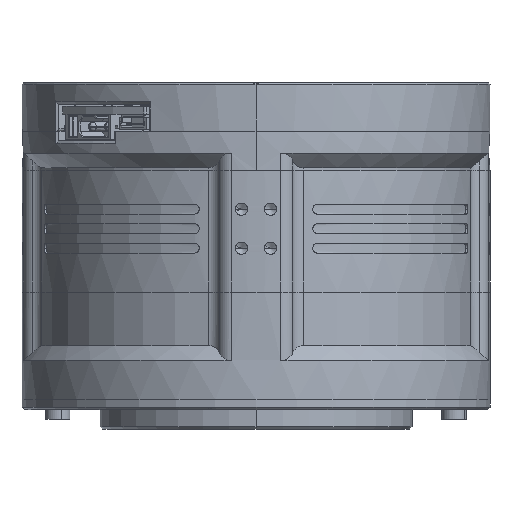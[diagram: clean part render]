
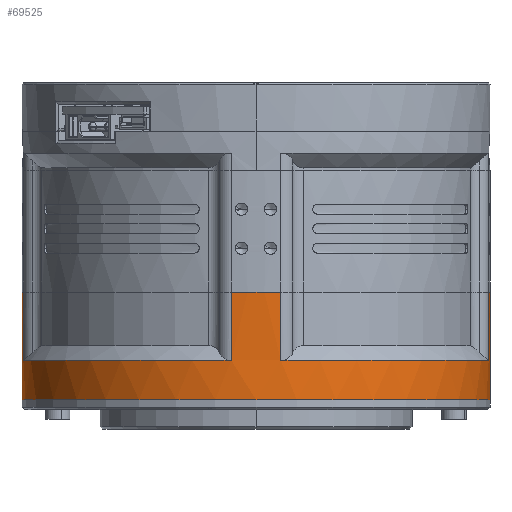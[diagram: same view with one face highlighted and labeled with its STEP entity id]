
A CAD part, front view. The second image highlights one B-rep face of the part: STEP entity #69525.
In plain terms, the highlighted cylindrical face has radius 48 mm (diameter 96 mm), a partial arc.
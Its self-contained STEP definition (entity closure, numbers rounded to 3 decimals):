
#195 = CARTESIAN_POINT ( 'NONE',  ( -47.729, 23.1, -5.093 ) ) ;
#905 = VERTEX_POINT ( 'NONE', #93156 ) ;
#3722 = EDGE_CURVE ( 'NONE', #7662, #54950, #123727, .T. ) ;
#4170 = ORIENTED_EDGE ( 'NONE', *, *, #126357, .F. ) ;
#7050 = CARTESIAN_POINT ( 'NONE',  ( 0., 1., 0. ) ) ;
#7245 = CARTESIAN_POINT ( 'NONE',  ( 0., 23.1, 0. ) ) ;
#7662 = VERTEX_POINT ( 'NONE', #98422 ) ;
#10066 = CARTESIAN_POINT ( 'NONE',  ( 0., 23.1, 48. ) ) ;
#10171 = VERTEX_POINT ( 'NONE', #34014 ) ;
#10293 = EDGE_CURVE ( 'NONE', #105830, #10171, #43417, .T. ) ;
#11532 = ORIENTED_EDGE ( 'NONE', *, *, #127042, .F. ) ;
#12096 = VECTOR ( 'NONE', #79779, 1000. ) ;
#13993 = VERTEX_POINT ( 'NONE', #85271 ) ;
#15131 = LINE ( 'NONE', #37791, #12096 ) ;
#15482 = CARTESIAN_POINT ( 'NONE',  ( 0., 1., 48. ) ) ;
#20177 = CIRCLE ( 'NONE', #97074, 48. ) ;
#20524 = VERTEX_POINT ( 'NONE', #26044 ) ;
#21372 = LINE ( 'NONE', #94247, #105594 ) ;
#21634 = DIRECTION ( 'NONE',  ( 0., 0., 1. ) ) ;
#22444 = DIRECTION ( 'NONE',  ( 0., -1., 0. ) ) ;
#23798 = DIRECTION ( 'NONE',  ( 0., 0., 1. ) ) ;
#25520 = CARTESIAN_POINT ( 'NONE',  ( 0., 23.1, -48. ) ) ;
#26044 = CARTESIAN_POINT ( 'NONE',  ( -5.093, 23.1, 47.729 ) ) ;
#30268 = EDGE_CURVE ( 'NONE', #7662, #96252, #96383, .T. ) ;
#30474 = ORIENTED_EDGE ( 'NONE', *, *, #76120, .T. ) ;
#33994 = ORIENTED_EDGE ( 'NONE', *, *, #30268, .T. ) ;
#34014 = CARTESIAN_POINT ( 'NONE',  ( -47.729, 9.1, 5.093 ) ) ;
#34548 = CIRCLE ( 'NONE', #56562, 48. ) ;
#35555 = AXIS2_PLACEMENT_3D ( 'NONE', #7050, #99896, #131483 ) ;
#37167 = ORIENTED_EDGE ( 'NONE', *, *, #74028, .F. ) ;
#37791 = CARTESIAN_POINT ( 'NONE',  ( -5.093, 23.1, -47.729 ) ) ;
#38803 = LINE ( 'NONE', #81457, #133434 ) ;
#41997 = CARTESIAN_POINT ( 'NONE',  ( -47.729, 9.1, -5.093 ) ) ;
#43417 = CIRCLE ( 'NONE', #120259, 48. ) ;
#44052 = DIRECTION ( 'NONE',  ( 0., 0., -1. ) ) ;
#49469 = VECTOR ( 'NONE', #64858, 1000. ) ;
#51144 = DIRECTION ( 'NONE',  ( 0., -1., 0. ) ) ;
#54275 = EDGE_CURVE ( 'NONE', #13993, #68440, #95768, .T. ) ;
#54950 = VERTEX_POINT ( 'NONE', #93916 ) ;
#56562 = AXIS2_PLACEMENT_3D ( 'NONE', #115800, #84207, #21634 ) ;
#57095 = AXIS2_PLACEMENT_3D ( 'NONE', #116265, #104625, #44052 ) ;
#59160 = LINE ( 'NONE', #69546, #86987 ) ;
#61078 = EDGE_CURVE ( 'NONE', #20524, #105830, #21372, .T. ) ;
#62175 = DIRECTION ( 'NONE',  ( 0., 1., 0. ) ) ;
#64858 = DIRECTION ( 'NONE',  ( 0., -1., 0. ) ) ;
#68440 = VERTEX_POINT ( 'NONE', #41997 ) ;
#69525 = ADVANCED_FACE ( 'NONE', ( #127937 ), #126579, .T. ) ;
#69546 = CARTESIAN_POINT ( 'NONE',  ( -47.729, 23.1, 5.093 ) ) ;
#73483 = EDGE_CURVE ( 'NONE', #96252, #124797, #94878, .T. ) ;
#73987 = ORIENTED_EDGE ( 'NONE', *, *, #61078, .T. ) ;
#74028 = EDGE_CURVE ( 'NONE', #20524, #93963, #90735, .T. ) ;
#75413 = AXIS2_PLACEMENT_3D ( 'NONE', #95145, #62175, #113711 ) ;
#76120 = EDGE_CURVE ( 'NONE', #10171, #905, #59160, .T. ) ;
#77705 = VERTEX_POINT ( 'NONE', #131877 ) ;
#79779 = DIRECTION ( 'NONE',  ( 0., 1., 0. ) ) ;
#81215 = DIRECTION ( 'NONE',  ( 0., -1., 0. ) ) ;
#81457 = CARTESIAN_POINT ( 'NONE',  ( 0., 23.1, 48. ) ) ;
#84207 = DIRECTION ( 'NONE',  ( 0., 1., 0. ) ) ;
#85271 = CARTESIAN_POINT ( 'NONE',  ( -47.729, 23.1, -5.093 ) ) ;
#86987 = VECTOR ( 'NONE', #121030, 1000. ) ;
#88765 = CARTESIAN_POINT ( 'NONE',  ( 0., 1., -48. ) ) ;
#90735 = CIRCLE ( 'NONE', #103889, 48. ) ;
#91847 = EDGE_LOOP ( 'NONE', ( #11532, #37167, #73987, #134081, #30474, #4170, #120098, #122630, #102548, #123463, #33994, #129696 ) ) ;
#92185 = CARTESIAN_POINT ( 'NONE',  ( 0., 9.1, 0. ) ) ;
#93156 = CARTESIAN_POINT ( 'NONE',  ( -47.729, 23.1, 5.093 ) ) ;
#93584 = DIRECTION ( 'NONE',  ( 0., -1., 0. ) ) ;
#93916 = CARTESIAN_POINT ( 'NONE',  ( -5.093, 23.1, -47.729 ) ) ;
#93963 = VERTEX_POINT ( 'NONE', #10066 ) ;
#94247 = CARTESIAN_POINT ( 'NONE',  ( -5.093, 23.1, 47.729 ) ) ;
#94878 = CIRCLE ( 'NONE', #35555, 48. ) ;
#95145 = CARTESIAN_POINT ( 'NONE',  ( 0., 23.1, 0. ) ) ;
#95768 = LINE ( 'NONE', #195, #49469 ) ;
#96252 = VERTEX_POINT ( 'NONE', #88765 ) ;
#96383 = LINE ( 'NONE', #25520, #106235 ) ;
#96690 = CARTESIAN_POINT ( 'NONE',  ( 0., 9.1, 0. ) ) ;
#97074 = AXIS2_PLACEMENT_3D ( 'NONE', #96690, #22444, #23798 ) ;
#97743 = DIRECTION ( 'NONE',  ( 0., -1., 0. ) ) ;
#98422 = CARTESIAN_POINT ( 'NONE',  ( 0., 23.1, -48. ) ) ;
#99896 = DIRECTION ( 'NONE',  ( 0., 1., 0. ) ) ;
#102548 = ORIENTED_EDGE ( 'NONE', *, *, #123964, .T. ) ;
#103889 = AXIS2_PLACEMENT_3D ( 'NONE', #7245, #112420, #122053 ) ;
#104625 = DIRECTION ( 'NONE',  ( 0., -1., 0. ) ) ;
#105594 = VECTOR ( 'NONE', #93584, 1000. ) ;
#105830 = VERTEX_POINT ( 'NONE', #106159 ) ;
#106159 = CARTESIAN_POINT ( 'NONE',  ( -5.093, 9.1, 47.729 ) ) ;
#106235 = VECTOR ( 'NONE', #97743, 1000. ) ;
#112420 = DIRECTION ( 'NONE',  ( 0., 1., 0. ) ) ;
#112820 = DIRECTION ( 'NONE',  ( 0., 0., 1. ) ) ;
#113711 = DIRECTION ( 'NONE',  ( 0., 0., 1. ) ) ;
#115800 = CARTESIAN_POINT ( 'NONE',  ( 0., 23.1, 0. ) ) ;
#115814 = EDGE_CURVE ( 'NONE', #68440, #77705, #20177, .T. ) ;
#116265 = CARTESIAN_POINT ( 'NONE',  ( 0., 23.1, 0. ) ) ;
#120098 = ORIENTED_EDGE ( 'NONE', *, *, #54275, .T. ) ;
#120259 = AXIS2_PLACEMENT_3D ( 'NONE', #92185, #81215, #112820 ) ;
#121030 = DIRECTION ( 'NONE',  ( 0., 1., 0. ) ) ;
#122053 = DIRECTION ( 'NONE',  ( 0., 0., 1. ) ) ;
#122630 = ORIENTED_EDGE ( 'NONE', *, *, #115814, .T. ) ;
#123463 = ORIENTED_EDGE ( 'NONE', *, *, #3722, .F. ) ;
#123727 = CIRCLE ( 'NONE', #75413, 48. ) ;
#123964 = EDGE_CURVE ( 'NONE', #77705, #54950, #15131, .T. ) ;
#124797 = VERTEX_POINT ( 'NONE', #15482 ) ;
#126357 = EDGE_CURVE ( 'NONE', #13993, #905, #34548, .T. ) ;
#126579 = CYLINDRICAL_SURFACE ( 'NONE', #57095, 48. ) ;
#127042 = EDGE_CURVE ( 'NONE', #93963, #124797, #38803, .T. ) ;
#127937 = FACE_OUTER_BOUND ( 'NONE', #91847, .T. ) ;
#129696 = ORIENTED_EDGE ( 'NONE', *, *, #73483, .T. ) ;
#131483 = DIRECTION ( 'NONE',  ( 0., 0., 1. ) ) ;
#131877 = CARTESIAN_POINT ( 'NONE',  ( -5.093, 9.1, -47.729 ) ) ;
#133434 = VECTOR ( 'NONE', #51144, 1000. ) ;
#134081 = ORIENTED_EDGE ( 'NONE', *, *, #10293, .T. ) ;
